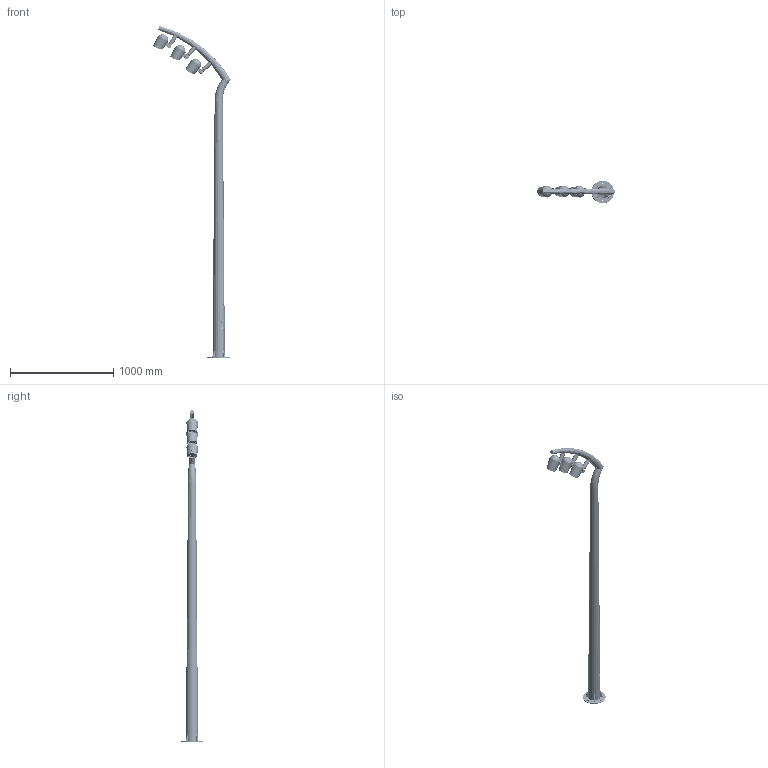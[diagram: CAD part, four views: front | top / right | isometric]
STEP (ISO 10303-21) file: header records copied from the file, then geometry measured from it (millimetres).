
FILE_DESCRIPTION((''),'2;1');
FILE_NAME('0BS_ASM_ASM_ASM','2025-09-04T17:10:40',('Administrator'),(''),'CREO PARAMETRIC BY PTC INC, 2021063','CREO PARAMETRIC BY PTC INC, 2021063','');
FILE_SCHEMA(('CONFIG_CONTROL_DESIGN'));
Products named in the file (96): 2_1_2_1_1_2; 9BS_ASM_10_ASM_1_ASM_1_ASM_1_AS_ASM; 9BS__ASM_5_ASM_1_ASM_1_ASM_1_ASM; 0BS_ASM_1_ASM_1_ASM_1_ASM; 0BS_ASM_ASM_1_ASM_1_ASM; 0BS-C_8; CE100_D____ANY_1_1; M4-20_1_1; 3BS-A_1_1; M3-6_1_1; CE100_A_ANY_1_1; M3-12_1_1; DIAN_YUAN-100-1_1_1; M4-8_1_1; 3TP____-19325_2_1_ANY_1_1; MSBR-1_1_1; CE100_A_1_ANY_1_1; M2-5-4_1_1; 3DJ2019_2_1_1; 2019-3DJ_2_1_1; 3DJGUANGYUANBAN_2_1_1; B76-A_1_1; 3DJ-3BG_ASM_35_1_ASM_2_ASM_1_AS_ASM; CE_100_B2_ANY_1_1; DIAN_YUAN-100-3_1_1; SAN_RE_BAN_1_1; 3BS-B_1_1; CE100_B_1__1_ANY_2_1; DIAN_YUAN-100-2_1_1; M3-0_1_1; 3BS__1; 519_1; 100__ASM_3_ASM_ASM_2_ASM; CE100_D____ANY_1_1_1; M4-20_1_1_1; 3BS-A_1_1_1; M3-6_1_1_1; CE100_A_ANY_1_1_1; M3-12_1_1_1; DIAN_YUAN-100-1_1_1_1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
Assembly tree (142 placements, depth 7):
  0BS_ASM_ASM_ASM
    0BS_ASM_ASM_45_ASM
      0BS_ASM_ASM_1_ASM_1_ASM
        0BS_ASM_1_ASM_1_ASM_1_ASM
          9BS__ASM_5_ASM_1_ASM_1_ASM_1_ASM
            9BS_ASM_10_ASM_1_ASM_1_ASM_1_AS_ASM
              2_1_2_1_1_2
      0BS-C_8
      100__ASM_3_ASM_ASM_2_ASM
        CE100_D____ANY_1_1
        M4-20_1_1  x4
        3BS-A_1_1
        M3-6_1_1  x7
        CE100_A_ANY_1_1
        M3-12_1_1  x4
        DIAN_YUAN-100-1_1_1
        M4-8_1_1  x2
        3TP____-19325_2_1_ANY_1_1
        MSBR-1_1_1
        CE100_A_1_ANY_1_1
        3DJ-3BG_ASM_35_1_ASM_2_ASM_1_AS_ASM
          M2-5-4_1_1  x2
          3DJ2019_2_1_1
          2019-3DJ_2_1_1
          3DJGUANGYUANBAN_2_1_1
          B76-A_1_1
        CE_100_B2_ANY_1_1
        DIAN_YUAN-100-3_1_1
        SAN_RE_BAN_1_1
        3BS-B_1_1
        CE100_B_1__1_ANY_2_1
        DIAN_YUAN-100-2_1_1
        M3-0_1_1
        3BS__1
        519_1
      100__ASM_3_ASM_ASM_ASM_1_ASM
        100__ASM_3_ASM_ASM_1_ASM_3_ASM
          CE100_D____ANY_1_1_1
          M4-20_1_1_1  x4
          3BS-A_1_1_1
          M3-6_1_1_1  x7
          CE100_A_ANY_1_1_1
          M3-12_1_1_1  x4
          DIAN_YUAN-100-1_1_1_1
          M4-8_1_1_1  x2
          3TP____-19325_2_1_ANY_1_1_1
          MSBR-1_1_1_1
          CE100_A_1_ANY_1_1_1
          3DJ-3BG_ASM_35_1_ASM_2_ASM_1__1_ASM
            M2-5-4_1_1_1  x2
            3DJ2019_2_1_1_1
            2019-3DJ_2_1_1_1
            3DJGUANGYUANBAN_2_1_1_1
            B76-A_1_1_1
          CE_100_B2_ANY_1_1_1
          DIAN_YUAN-100-3_1_1_1
          SAN_RE_BAN_1_1_1
          3BS-B_1_1_1
          CE100_B_1__1_ANY_2_1_1
          DIAN_YUAN-100-2_1_1_1
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Bounding box: 752.57 x 220 x 3219.92 mm (x, y, z)
Volume: 4102771.9 mm3; surface area: 2851644.4 mm2
Topology: 123 solids, 127 shells, 11905 faces, 32391 edges, 20466 vertices
Faces by surface type: plane 4809, bspline 3263, cylinder 1726, cone 1155, torus 632, sphere 159, revolution 108, extrusion 53
Entity records: 592901 total; most frequent: CARTESIAN_POINT 339815, ORIENTED_EDGE 59069, DIRECTION 42533, EDGE_CURVE 29544, VERTEX_POINT 18980, AXIS2_PLACEMENT_3D 15033, VECTOR 12395, LINE 12342
